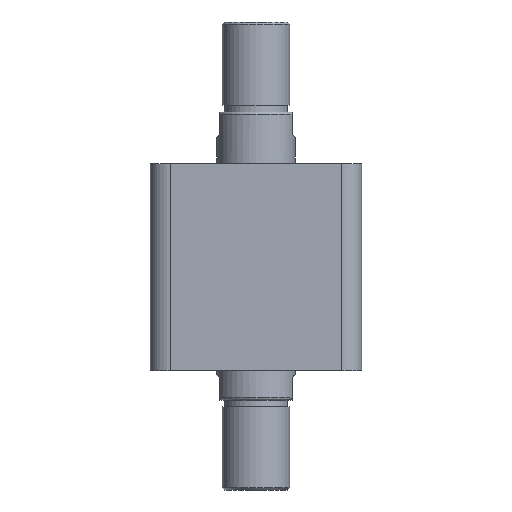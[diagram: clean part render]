
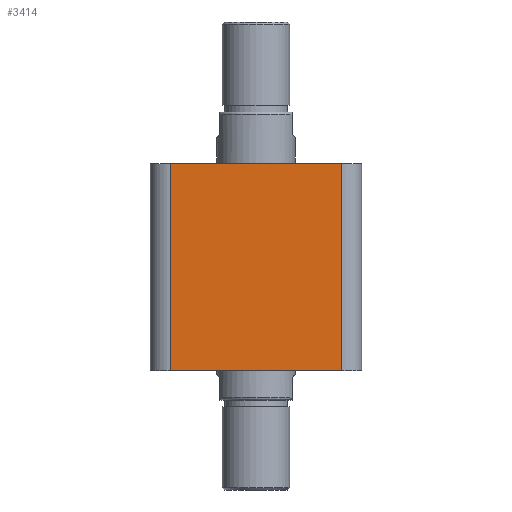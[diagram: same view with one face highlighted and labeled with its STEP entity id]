
A CAD part, front view. The second image highlights one B-rep face of the part: STEP entity #3414.
In plain terms, the highlighted planar face has unit normal (0, -1, 0).
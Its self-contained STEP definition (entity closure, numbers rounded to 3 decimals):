
#72 = EDGE_LOOP ( 'NONE', ( #2004, #2476, #2030, #2475 ) ) ;
#359 = AXIS2_PLACEMENT_3D ( 'NONE', #1664, #1669, #1670 ) ;
#478 = CARTESIAN_POINT ( 'NONE',  ( -47., -47., 0. ) ) ;
#488 = CARTESIAN_POINT ( 'NONE',  ( -47., -47., 92. ) ) ;
#489 = DIRECTION ( 'NONE',  ( 1., 0., 0. ) ) ;
#490 = CARTESIAN_POINT ( 'NONE',  ( -38., -47., 92. ) ) ;
#491 = DIRECTION ( 'NONE',  ( 0., 0., -1. ) ) ;
#492 = DIRECTION ( 'NONE',  ( 1., 0., 0. ) ) ;
#493 = CARTESIAN_POINT ( 'NONE',  ( 38., -47., 92. ) ) ;
#494 = DIRECTION ( 'NONE',  ( 0., 0., 1. ) ) ;
#1118 = CARTESIAN_POINT ( 'NONE',  ( -38., -47., 92. ) ) ;
#1161 = CARTESIAN_POINT ( 'NONE',  ( 38., -47., 0. ) ) ;
#1171 = CARTESIAN_POINT ( 'NONE',  ( 38., -47., 92. ) ) ;
#1177 = CARTESIAN_POINT ( 'NONE',  ( -38., -47., 0. ) ) ;
#1664 = CARTESIAN_POINT ( 'NONE',  ( -47., -47., 92. ) ) ;
#1665 = PLANE ( 'NONE',  #359 ) ;
#1669 = DIRECTION ( 'NONE',  ( 0., 1., 0. ) ) ;
#1670 = DIRECTION ( 'NONE',  ( 0., 0., 1. ) ) ;
#2004 = ORIENTED_EDGE ( 'NONE', *, *, #3213, .F. ) ;
#2030 = ORIENTED_EDGE ( 'NONE', *, *, #3215, .T. ) ;
#2172 = VERTEX_POINT ( 'NONE', #1118 ) ;
#2215 = VERTEX_POINT ( 'NONE', #1161 ) ;
#2225 = VERTEX_POINT ( 'NONE', #1171 ) ;
#2231 = VERTEX_POINT ( 'NONE', #1177 ) ;
#2475 = ORIENTED_EDGE ( 'NONE', *, *, #3216, .T. ) ;
#2476 = ORIENTED_EDGE ( 'NONE', *, *, #3214, .T. ) ;
#2817 = LINE ( 'NONE', #478, #2830 ) ;
#2823 = LINE ( 'NONE', #488, #2826 ) ;
#2825 = LINE ( 'NONE', #490, #2828 ) ;
#2826 = VECTOR ( 'NONE', #489, 1000. ) ;
#2828 = VECTOR ( 'NONE', #491, 1000. ) ;
#2829 = LINE ( 'NONE', #493, #2832 ) ;
#2830 = VECTOR ( 'NONE', #492, 1000. ) ;
#2832 = VECTOR ( 'NONE', #494, 1000. ) ;
#3051 = FACE_OUTER_BOUND ( 'NONE', #72, .T. ) ;
#3213 = EDGE_CURVE ( 'NONE', #2172, #2225, #2823, .T. ) ;
#3214 = EDGE_CURVE ( 'NONE', #2172, #2231, #2825, .T. ) ;
#3215 = EDGE_CURVE ( 'NONE', #2231, #2215, #2817, .T. ) ;
#3216 = EDGE_CURVE ( 'NONE', #2215, #2225, #2829, .T. ) ;
#3414 = ADVANCED_FACE ( 'NONE', ( #3051 ), #1665, .F. ) ;
